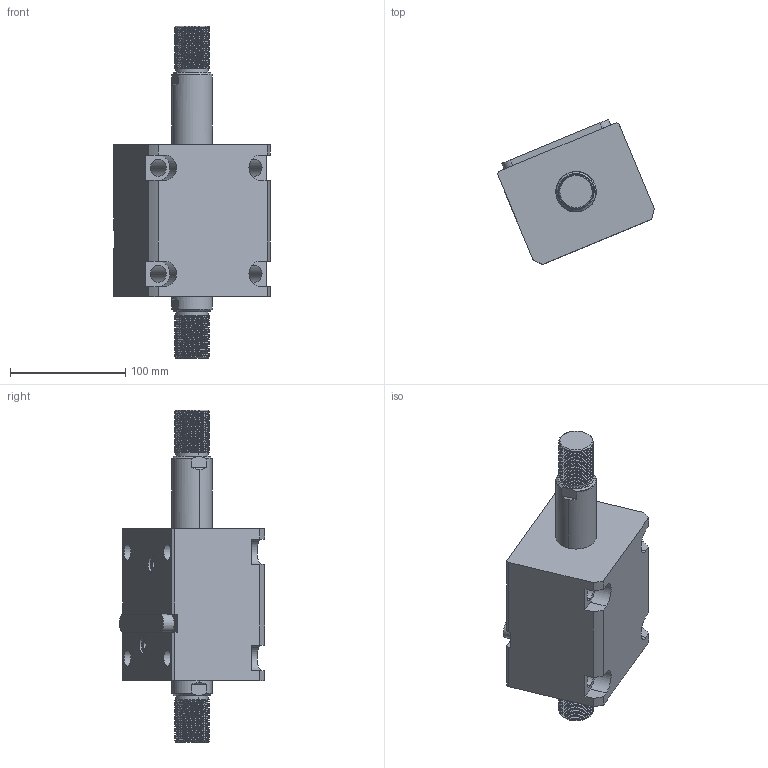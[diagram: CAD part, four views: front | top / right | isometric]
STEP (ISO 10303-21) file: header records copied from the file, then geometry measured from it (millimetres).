
FILE_DESCRIPTION (( 'STEP AP214' ), '1' );
FILE_NAME ('chtb-lwm63x50w_asm.STEP', '2018-05-22T01:31:17', ( 'Windows' ), ( 'Microsoft' ), 'SwSTEP 2.0', 'SolidWorks 2015', '' );
FILE_SCHEMA (( 'AUTOMOTIVE_DESIGN' ));
Length unit declared in the file: millimetre
Products named in the file (5): CHTB-SW63X50WHSG; CHTB-LWM63X50NBT; CHTB-LA63PJ; CHTB-63QG; chtb-lwm63x50w_asm
Assembly tree (4 placements, depth 2):
  chtb-lwm63x50w_asm
    CHTB-63QG
    CHTB-LA63PJ
    CHTB-LWM63X50NBT
    CHTB-SW63X50WHSG
Bounding box: 135.77 x 126.06 x 288 mm (x, y, z)
Volume: 1280689 mm3; surface area: 180256.4 mm2
Topology: 4 solids, 4 shells, 298 faces, 869 edges, 587 vertices
Faces by surface type: cylinder 203, plane 55, bspline 16, cone 12, torus 12
Entity records: 27660 total; most frequent: CARTESIAN_POINT 20506, ORIENTED_EDGE 1730, DIRECTION 1186, EDGE_CURVE 865, VERTEX_POINT 587, AXIS2_PLACEMENT_3D 440, EDGE_LOOP 326, LINE 306
